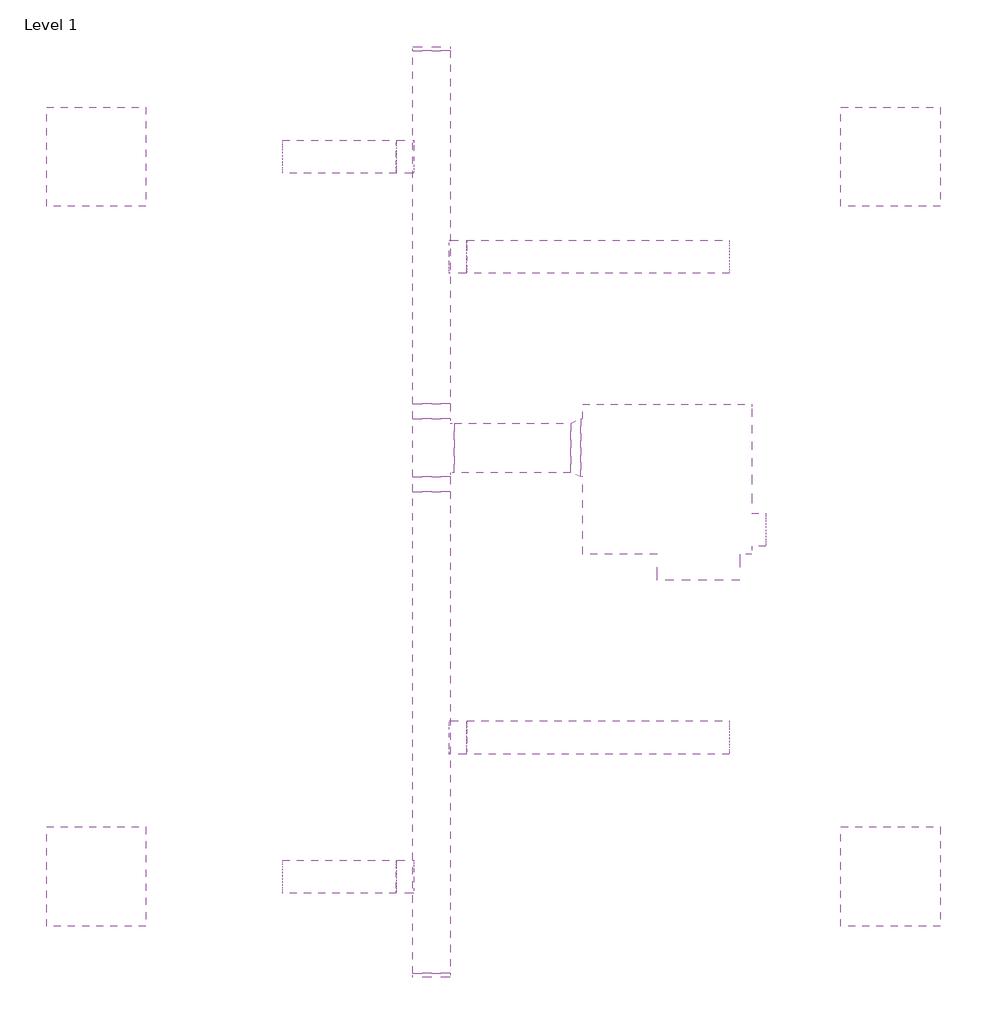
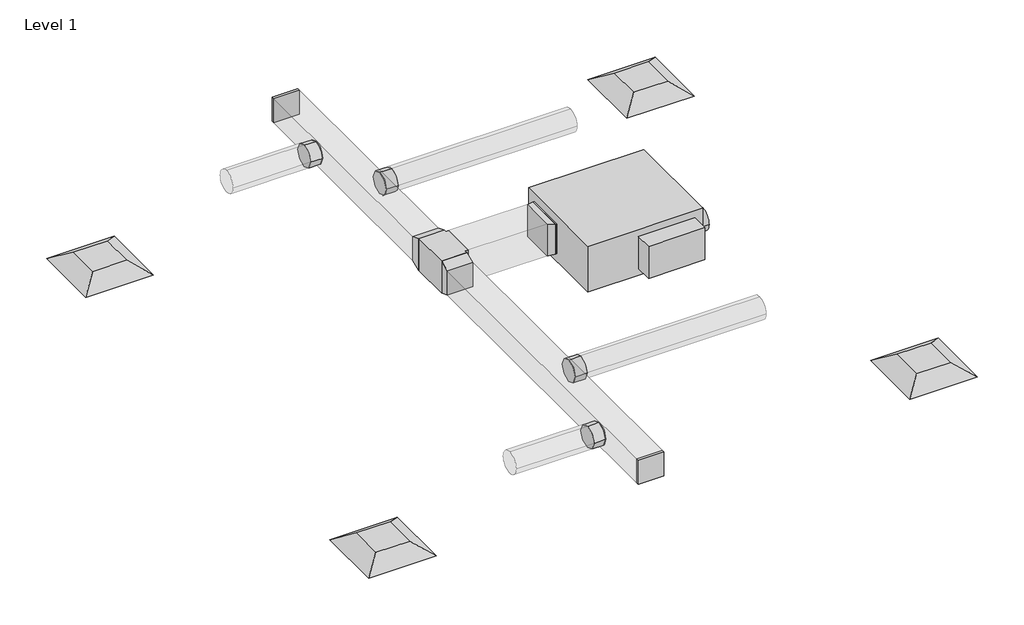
# One storey: 10 duct fittings, 7 duct segments, 4 air terminals, 1 proxy.
"""IFC4 building model written with IfcOpenShell, lengths in millimetres."""

from ifc_helpers import new_model, si_unit, point, frame, frame_2d, origin, place, context, project, spatial, polyline, circle_curve, trimmed, segment, composite_curve, outline, extrude, transform, mapped, element, save
from components import supply_diffuser_24_x_24_face_12_x_12_connection_ff543d60, vav_unit_parallel_fan_powered_size_2_8_inch_inlet_1779b90c, rectangular_endcap_standard_343960f6, rectangular_tee_standard_a9e45034, rectangular_transition_angle_45_degree_69fbfd40, rectangular_transition_angle_45_degree_cbc335ff, round_takeoff_standard_1127d77f

model = new_model("IFC4")

# Units and contexts
model_context = context("Model", 3, world=origin())
ifc_project = project(units=[si_unit("LENGTHUNIT", "METRE", prefix="MILLI")], contexts=[model_context])

# Site, building, storey
site = spatial("IfcSite", under=ifc_project)
building = spatial("IfcBuilding", under=site)
storey = spatial("IfcBuildingStorey", under=building, Name="Level 1", Elevation=3900.0)

# Air terminals
placement = place(None, origin())
supply_diffuser_24_x_24_face_12_x_12_connection_shape = supply_diffuser_24_x_24_face_12_x_12_connection_ff543d60(model_context)
element("IfcAirTerminal", 1, ObjectType="Supply Diffuser : 24 x 24 Face 12 x 12 Connection", at=placement, inside=storey, context=model_context, shape_type="MappedRepresentation", body=[
    mapped(supply_diffuser_24_x_24_face_12_x_12_connection_shape, transform((2118.6000023, 13534.4000005, 6687.65), x_axis=(1.0, 0.0, 0.0), y_axis=(0.0, 1.0, 0.0), z_axis=(0.0, 0.0, 1.0))),
])
element("IfcAirTerminal", 2, ObjectType="Supply Diffuser : 24 x 24 Face 12 x 12 Connection", at=placement, inside=storey, context=model_context, shape_type="MappedRepresentation", body=[
    mapped(supply_diffuser_24_x_24_face_12_x_12_connection_shape, transform((2118.6000023, 9114.8000005, 6687.65), x_axis=(1.0, 0.0, 0.0), y_axis=(0.0, 1.0, 0.0), z_axis=(0.0, 0.0, 1.0))),
])
element("IfcAirTerminal", 3, ObjectType="Supply Diffuser : 24 x 24 Face 12 x 12 Connection", at=placement, inside=storey, context=model_context, shape_type="MappedRepresentation", body=[
    mapped(supply_diffuser_24_x_24_face_12_x_12_connection_shape, transform((6995.4000023, 9114.8000005, 6687.65), x_axis=(1.0, 0.0, 0.0), y_axis=(0.0, 1.0, 0.0), z_axis=(0.0, 0.0, 1.0))),
])
element("IfcAirTerminal", 4, ObjectType="Supply Diffuser : 24 x 24 Face 12 x 12 Connection", at=placement, inside=storey, context=model_context, shape_type="MappedRepresentation", body=[
    mapped(supply_diffuser_24_x_24_face_12_x_12_connection_shape, transform((6995.4000023, 13534.4000005, 6687.65), x_axis=(1.0, 0.0, 0.0), y_axis=(0.0, 1.0, 0.0), z_axis=(0.0, 0.0, 1.0))),
])

# Proxy
vav_unit_parallel_fan_powered_size_2_8_inch_inlet_shape = vav_unit_parallel_fan_powered_size_2_8_inch_inlet_1779b90c(model_context)
element("IfcBuildingElementProxy", 5, Name="VAV Unit - Parallel Fan Powered : Size 2 - 8 inch Inlet", ObjectType="VAV Unit - Parallel Fan Powered : Size 2 - 8 inch Inlet", at=placement, inside=storey, context=model_context, shape_type="MappedRepresentation", body=[
    mapped(vav_unit_parallel_fan_powered_size_2_8_inch_inlet_shape, transform((5623.8000023, 11553.2000005, 7100.4), x_axis=(-1.0, 0.0, 0.0), y_axis=(0.0, -1.0, 0.0), z_axis=(0.0, 0.0, 1.0))),
])

# Duct fittings
rectangular_endcap_standard_shape = rectangular_endcap_standard_343960f6(model_context)
element("IfcDuctFitting", 6, ObjectType="Rectangular Endcap : Standard", at=placement, inside=storey, context=model_context, shape_type="MappedRepresentation", body=[
    mapped(rectangular_endcap_standard_shape, transform((4177.5875023, 8521.0750005, 7100.4), x_axis=(0.0, -1.0, 0.0), y_axis=(1.0, 0.0, 0.0), z_axis=(0.0, 0.0, 1.0))),
])
element("IfcDuctFitting", 7, ObjectType="Rectangular Endcap : Standard", at=placement, inside=storey, context=model_context, shape_type="MappedRepresentation", body=[
    mapped(rectangular_endcap_standard_shape, transform((4177.5875023, 14185.2750005, 7100.4), x_axis=(0.0, 1.0, 0.0), y_axis=(-1.0, 0.0, 0.0), z_axis=(0.0, 0.0, 1.0))),
])
rectangular_tee_standard_shape = rectangular_tee_standard_a9e45034(model_context)
element("IfcDuctFitting", 8, ObjectType="Rectangular Tee : Standard", at=placement, inside=storey, context=model_context, shape_type="MappedRepresentation", body=[
    mapped(rectangular_tee_standard_shape, transform((4177.5875023, 11746.8750005, 7100.4), x_axis=(0.0, 1.0, 0.0), y_axis=(-1.0, 0.0, 0.0), z_axis=(0.0, 0.0, 1.0))),
])
rectangular_transition_angle_45_degree_shape = rectangular_transition_angle_45_degree_69fbfd40(model_context)
element("IfcDuctFitting", 9, ObjectType="Rectangular Transition - Angle : 45 Degree", at=placement, inside=storey, context=model_context, shape_type="MappedRepresentation", body=[
    mapped(rectangular_transition_angle_45_degree_shape, transform((5091.9875023, 11746.8750005, 7100.4), x_axis=(-1.0, 0.0, 0.0), y_axis=(0.0, -1.0, 0.0), z_axis=(0.0, 0.0, 1.0))),
])
rectangular_transition_angle_45_degree_2_shape = rectangular_transition_angle_45_degree_cbc335ff(model_context)
element("IfcDuctFitting", 10, ObjectType="Rectangular Transition - Angle : 45 Degree", at=placement, inside=storey, context=model_context, shape_type="MappedRepresentation", body=[
    mapped(rectangular_transition_angle_45_degree_2_shape, transform((4177.5875023, 11569.0750005, 7100.4), x_axis=(0.0, -1.0, 0.0), y_axis=(1.0, 0.0, 0.0), z_axis=(0.0, 0.0, 1.0))),
])
element("IfcDuctFitting", 11, ObjectType="Rectangular Transition - Angle : 45 Degree", at=placement, inside=storey, context=model_context, shape_type="MappedRepresentation", body=[
    mapped(rectangular_transition_angle_45_degree_2_shape, transform((4177.5875023, 11924.6750005, 7100.4), x_axis=(0.0, 1.0, 0.0), y_axis=(-1.0, 0.0, 0.0), z_axis=(0.0, 0.0, 1.0))),
])
round_takeoff_standard_shape = round_takeoff_standard_1127d77f(model_context)
element("IfcDuctFitting", 12, ObjectType="Round Takeoff : Standard", at=placement, inside=storey, context=model_context, shape_type="MappedRepresentation", body=[
    mapped(round_takeoff_standard_shape, transform((4063.2875023, 13534.4000005, 7100.4), x_axis=(-1.0, 0.0, 0.0), y_axis=(0.0, -1.0, 0.0), z_axis=(0.0, 0.0, 1.0))),
])
element("IfcDuctFitting", 13, ObjectType="Round Takeoff : Standard", at=placement, inside=storey, context=model_context, shape_type="MappedRepresentation", body=[
    mapped(round_takeoff_standard_shape, transform((4291.8875023, 12919.6337557, 7100.4), x_axis=(1.0, 0.0, 0.0), y_axis=(0.0, -1.0, 0.0), z_axis=(0.0, 0.0, -1.0))),
])
element("IfcDuctFitting", 14, ObjectType="Round Takeoff : Standard", at=placement, inside=storey, context=model_context, shape_type="MappedRepresentation", body=[
    mapped(round_takeoff_standard_shape, transform((4063.2875023, 9114.8000005, 7100.4), x_axis=(-1.0, 0.0, 0.0), y_axis=(0.0, 1.0, 0.0), z_axis=(0.0, 0.0, -1.0))),
])
element("IfcDuctFitting", 15, ObjectType="Round Takeoff : Standard", at=placement, inside=storey, context=model_context, shape_type="MappedRepresentation", body=[
    mapped(round_takeoff_standard_shape, transform((4291.8875023, 9968.8750005, 7100.4), x_axis=(1.0, 0.0, 0.0), y_axis=(0.0, 1.0, 0.0), z_axis=(0.0, 0.0, 1.0))),
])

# Duct segments
element("IfcDuctSegment", 16, ObjectType="Mitered Elbows / Tees", at=placement, inside=storey, context=model_context, shape_type="SweptSolid", body=[
    extrude(outline(polyline([(5030.6664778, 11899.2750005), (5030.6664778, 11594.4750005), (4317.2875023, 11594.4750005), (4317.2875023, 11899.2750005), (5030.6664778, 11899.2750005)])), frame((0.0, 0.0, 6948.0), z_axis=(0.0, 0.0, 1.0), x_axis=(1.0, 0.0, 0.0)), (0.0, 0.0, 1.0), 304.8),
])
element("IfcDuctSegment", 17, ObjectType="Mitered Elbows / Tees", at=placement, inside=storey, context=model_context, shape_type="SweptSolid", body=[
    extrude(outline(polyline([(4291.8875023, 12016.6565372), (4063.2875023, 12016.6565372), (4063.2875023, 14185.2750005), (4291.8875023, 14185.2750005), (4291.8875023, 12016.6565372)])), frame((0.0, 0.0, 6986.1), z_axis=(0.0, 0.0, 1.0), x_axis=(1.0, 0.0, 0.0)), (0.0, 0.0, 1.0), 228.6),
])
element("IfcDuctSegment", 18, ObjectType="Mitered Elbows / Tees", at=placement, inside=storey, context=model_context, shape_type="SweptSolid", body=[
    extrude(outline(polyline([(4063.2875023, 11477.0934638), (4291.8875023, 11477.0934638), (4291.8875023, 8521.0750005), (4063.2875023, 8521.0750005), (4063.2875023, 11477.0934638)])), frame((0.0, 0.0, 6986.1), z_axis=(0.0, 0.0, 1.0), x_axis=(1.0, 0.0, 0.0)), (0.0, 0.0, 1.0), 228.6),
])
element("IfcDuctSegment", 19, ObjectType="Taps", at=placement, inside=storey, context=model_context, shape_type="SweptSolid", body=[
    extrude(outline(composite_curve([segment(trimmed(circle_curve(frame_2d((13534.4000005, 7100.4)), 101.6), [point((13636.0000005, 7100.4))], [point((13534.4000005, 6998.8))], False, "CARTESIAN"), True, "CONTINUOUS"), segment(trimmed(circle_curve(frame_2d((13534.4000005, 7100.4)), 101.6), [point((13534.4000005, 6998.8))], [point((13432.8000005, 7100.4))], False, "CARTESIAN"), True, "CONTINUOUS"), segment(trimmed(circle_curve(frame_2d((13534.4000005, 7100.4)), 101.6), [point((13432.8000005, 7100.4))], [point((13534.4000005, 7202.0))], False, "CARTESIAN"), True, "CONTINUOUS"), segment(trimmed(circle_curve(frame_2d((13534.4000005, 7100.4)), 101.6), [point((13534.4000005, 7202.0))], [point((13636.0000005, 7100.4))], False, "CARTESIAN"), True, "CONTINUOUS")], self_intersect=False)), frame((3263.1875023, 0.0, 0.0), z_axis=(1.0, 0.0, 0.0), x_axis=(0.0, 1.0, 0.0)), (0.0, 0.0, 1.0), 698.5),
])
element("IfcDuctSegment", 20, ObjectType="Taps", at=placement, inside=storey, context=model_context, shape_type="SweptSolid", body=[
    extrude(outline(composite_curve([segment(trimmed(circle_curve(frame_2d((12919.6337557, 7100.4)), 101.6), [point((12818.0337557, 7100.4))], [point((12919.6337557, 7202.0))], False, "CARTESIAN"), True, "CONTINUOUS"), segment(trimmed(circle_curve(frame_2d((12919.6337557, 7100.4)), 101.6), [point((12919.6337557, 7202.0))], [point((13021.2337557, 7100.4))], False, "CARTESIAN"), True, "CONTINUOUS"), segment(trimmed(circle_curve(frame_2d((12919.6337557, 7100.4)), 101.6), [point((13021.2337557, 7100.4))], [point((12919.6337557, 6998.8))], False, "CARTESIAN"), True, "CONTINUOUS"), segment(trimmed(circle_curve(frame_2d((12919.6337557, 7100.4)), 101.6), [point((12919.6337557, 6998.8))], [point((12818.0337557, 7100.4))], False, "CARTESIAN"), True, "CONTINUOUS")], self_intersect=False)), frame((4393.4875023, 0.0, 0.0), z_axis=(1.0, 0.0, 0.0), x_axis=(0.0, 1.0, 0.0)), (0.0, 0.0, 1.0), 1612.9),
])
element("IfcDuctSegment", 21, ObjectType="Taps", at=placement, inside=storey, context=model_context, shape_type="SweptSolid", body=[
    extrude(outline(composite_curve([segment(trimmed(circle_curve(frame_2d((9114.8000005, 7100.4)), 101.6), [point((9216.4000005, 7100.4))], [point((9114.8000005, 6998.8))], False, "CARTESIAN"), True, "CONTINUOUS"), segment(trimmed(circle_curve(frame_2d((9114.8000005, 7100.4)), 101.6), [point((9114.8000005, 6998.8))], [point((9013.2000005, 7100.4))], False, "CARTESIAN"), True, "CONTINUOUS"), segment(trimmed(circle_curve(frame_2d((9114.8000005, 7100.4)), 101.6), [point((9013.2000005, 7100.4))], [point((9114.8000005, 7202.0))], False, "CARTESIAN"), True, "CONTINUOUS"), segment(trimmed(circle_curve(frame_2d((9114.8000005, 7100.4)), 101.6), [point((9114.8000005, 7202.0))], [point((9216.4000005, 7100.4))], False, "CARTESIAN"), True, "CONTINUOUS")], self_intersect=False)), frame((3263.1875023, 0.0, 0.0), z_axis=(1.0, 0.0, 0.0), x_axis=(0.0, 1.0, 0.0)), (0.0, 0.0, 1.0), 698.5),
])
element("IfcDuctSegment", 22, ObjectType="Taps", at=placement, inside=storey, context=model_context, shape_type="SweptSolid", body=[
    extrude(outline(composite_curve([segment(trimmed(circle_curve(frame_2d((9968.8750005, 7100.4)), 101.6), [point((9867.2750005, 7100.4))], [point((9968.8750005, 7202.0))], False, "CARTESIAN"), True, "CONTINUOUS"), segment(trimmed(circle_curve(frame_2d((9968.8750005, 7100.4)), 101.6), [point((9968.8750005, 7202.0))], [point((10070.4750005, 7100.4))], False, "CARTESIAN"), True, "CONTINUOUS"), segment(trimmed(circle_curve(frame_2d((9968.8750005, 7100.4)), 101.6), [point((10070.4750005, 7100.4))], [point((9968.8750005, 6998.8))], False, "CARTESIAN"), True, "CONTINUOUS"), segment(trimmed(circle_curve(frame_2d((9968.8750005, 7100.4)), 101.6), [point((9968.8750005, 6998.8))], [point((9867.2750005, 7100.4))], False, "CARTESIAN"), True, "CONTINUOUS")], self_intersect=False)), frame((4393.4875023, 0.0, 0.0), z_axis=(1.0, 0.0, 0.0), x_axis=(0.0, 1.0, 0.0)), (0.0, 0.0, 1.0), 1612.9),
])

save(model, "model.ifc")
